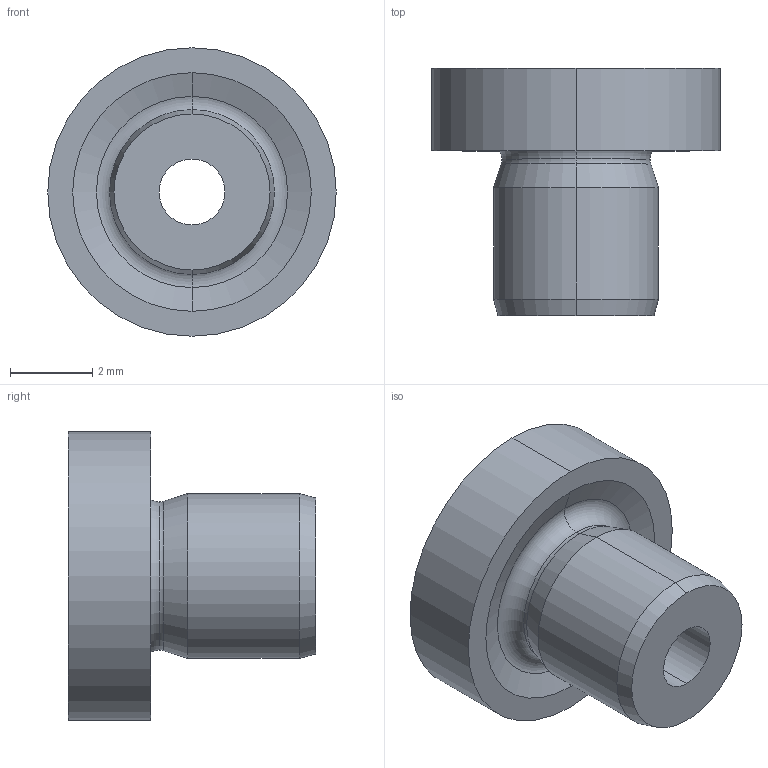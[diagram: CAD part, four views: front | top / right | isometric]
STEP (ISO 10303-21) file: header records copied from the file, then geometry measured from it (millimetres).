
FILE_DESCRIPTION (( 'STEP AP214' ), '1' );
FILE_NAME ('172-B1,6-6-A.step', '2024-10-17T05:11:38', ( '' ), ( '' ), 'SwSTEP 2.0', 'SolidWorks 2022', '' );
FILE_SCHEMA (( 'AUTOMOTIVE_DESIGN' ));
Length unit declared in the file: millimetre
Products named in the file (1): 172-B1,6-6-A
Bounding box: 7 x 6 x 7 mm (x, y, z)
Volume: 111.8 mm3; surface area: 198.8 mm2
Topology: 1 solids, 1 shells, 21 faces, 42 edges, 24 vertices
Faces by surface type: torus 6, cone 6, cylinder 6, plane 3
Entity records: 632 total; most frequent: DIRECTION 116, CARTESIAN_POINT 88, ORIENTED_EDGE 84, AXIS2_PLACEMENT_3D 52, EDGE_CURVE 42, CIRCLE 30, VERTEX_POINT 24, EDGE_LOOP 24
